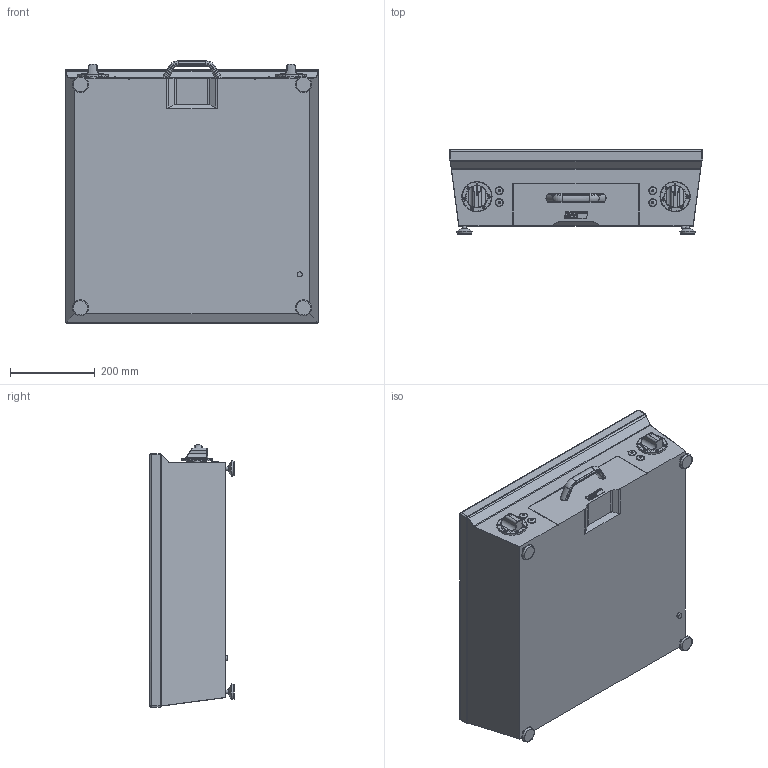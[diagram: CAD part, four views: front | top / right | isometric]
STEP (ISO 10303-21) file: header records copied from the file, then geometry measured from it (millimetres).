
FILE_DESCRIPTION (( 'STEP AP214' ), '1' );
FILE_NAME ('MS-G-60-RE.STEP', '2026-04-01T07:54:01', ( '' ), ( '' ), 'SwSTEP 2.0', 'SolidWorks 2023', '' );
FILE_SCHEMA (( 'AUTOMOTIVE_DESIGN' ));
Length unit declared in the file: millimetre
Products named in the file (1): MS-G-60-RE
Bounding box: 600 x 200 x 620.48 mm (x, y, z)
Volume: 47756394.3 mm3; surface area: 1316245.9 mm2
Topology: 9 solids, 12 shells, 1042 faces, 2636 edges, 1715 vertices
Faces by surface type: plane 536, bspline 290, cylinder 170, torus 30, cone 16
Full cylindrical faces by diameter (mm): 7.09 x4, 9.09 x4, 12 x1, 13 x2, 15 x2, 17 x4, 19 x4, 44.5 x2, 60 x2, 69.8 x2, 70 x2, 72 x2
Entity records: 35522 total; most frequent: CARTESIAN_POINT 13015, ORIENTED_EDGE 5108, DIRECTION 3654, EDGE_CURVE 2554, VERTEX_POINT 1684, LINE 1512, VECTOR 1512, EDGE_LOOP 1192
